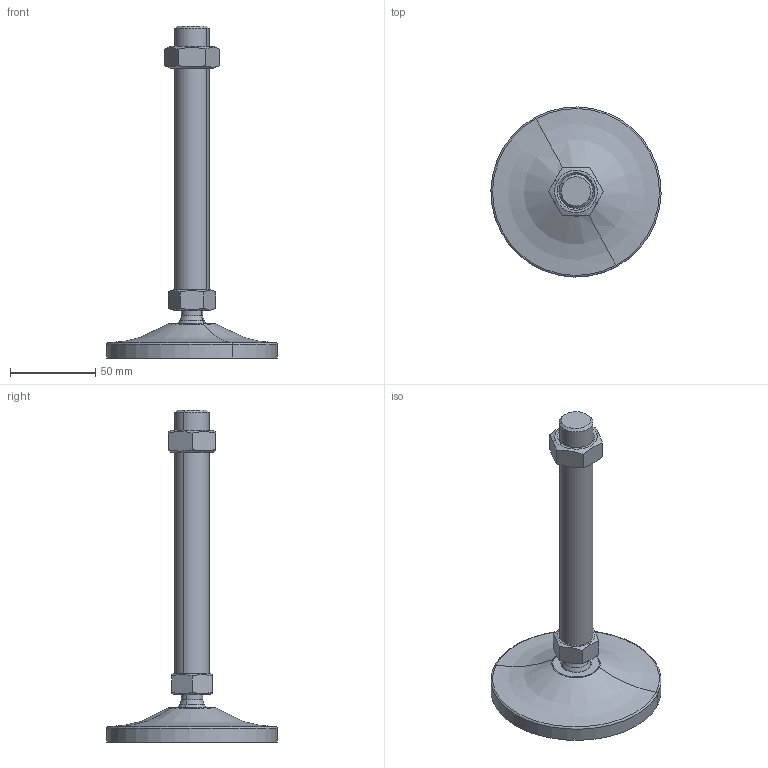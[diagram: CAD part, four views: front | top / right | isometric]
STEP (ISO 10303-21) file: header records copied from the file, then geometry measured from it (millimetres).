
FILE_DESCRIPTION(('CATIA V5 STEP Exchange'),'2;1');
FILE_NAME('C:\Users\ALI OZGUN\Desktop\alhan\saplama2\560102621.stp','2017-09-21T10:35:05+00:00',('none'),('none'),'CATIA Version 5 Release 21 GA (IN-10)','CATIA V5 STEP AP203','none');
FILE_SCHEMA(('CONFIG_CONTROL_DESIGN'));
Length unit declared in the file: millimetre
Products named in the file (1): 560102621
Bounding box: 99.97 x 99.97 x 195 mm (x, y, z)
Volume: 123380.1 mm3; surface area: 35543.1 mm2
Topology: 3 solids, 3 shells, 60 faces, 136 edges, 83 vertices
Faces by surface type: plane 20, cone 16, cylinder 14, torus 4, revolution 4, sphere 2
Entity records: 1878 total; most frequent: CARTESIAN_POINT 636, ORIENTED_EDGE 268, DIRECTION 185, EDGE_CURVE 134, AXIS2_PLACEMENT_3D 99, VERTEX_POINT 83, EDGE_LOOP 67, ADVANCED_FACE 60
